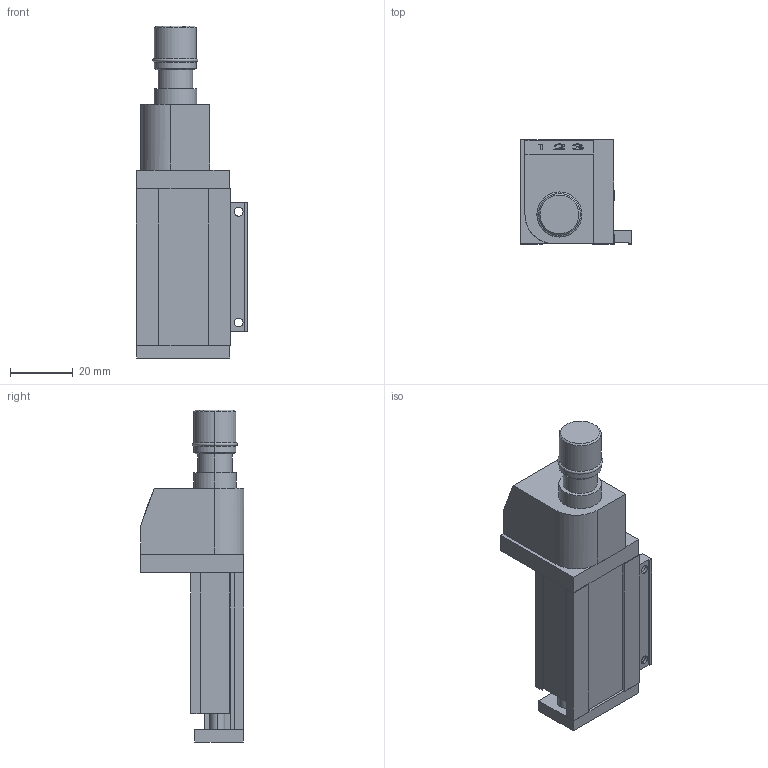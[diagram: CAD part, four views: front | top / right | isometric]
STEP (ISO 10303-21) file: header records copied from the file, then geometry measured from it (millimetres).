
FILE_DESCRIPTION (( 'STEP AP203' ), '1' );
FILE_NAME ('domiLINE 30 Digital..STEP', '2002-07-08T12:28:26', ( '' ), ( '' ), 'SwSTEP 2.0', 'SolidWorks 2002127', '' );
FILE_SCHEMA (( 'CONFIG_CONTROL_DESIGN' ));
Length unit declared in the file: millimetre
Products named in the file (5): domiLINE 30 Digital.; Befestigungssatz_B_30-+-D013681_ _PDB_316261; Klemmleiste_dL_50-+-D013680_ _PDB_051786; Aussen 30 lght-+-D007617_ _Standard; Innenteil 30-+-D007616_ _digitalanz.
Assembly tree (4 placements, depth 3):
  domiLINE 30 Digital.
    Innenteil 30-+-D007616_ _digitalanz.
    Aussen 30 lght-+-D007617_ _Standard
    Befestigungssatz_B_30-+-D013681_ _PDB_316261
      Klemmleiste_dL_50-+-D013680_ _PDB_051786
Bounding box: 35.6 x 33.2 x 106 mm (x, y, z)
Volume: 45275.9 mm3; surface area: 21273.4 mm2
Topology: 3 solids, 6 shells, 213 faces, 519 edges, 340 vertices
Faces by surface type: plane 128, cylinder 59, bspline 20, cone 4, torus 2
Entity records: 8443 total; most frequent: CARTESIAN_POINT 2916, ORIENTED_EDGE 1038, DIRECTION 1006, EDGE_CURVE 519, LINE 354, VECTOR 354, VERTEX_POINT 340, AXIS2_PLACEMENT_3D 326
